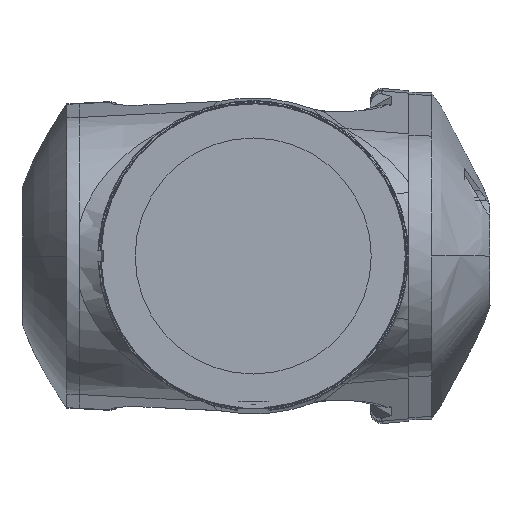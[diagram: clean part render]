
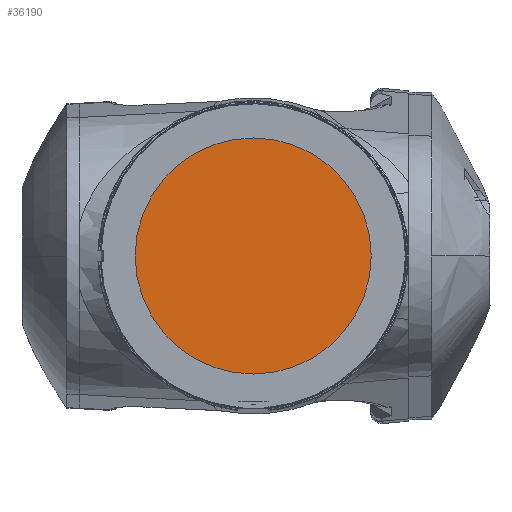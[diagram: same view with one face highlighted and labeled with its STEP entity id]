
A CAD part, left-side view. The second image highlights one B-rep face of the part: STEP entity #36190.
In plain terms, the highlighted planar face has unit normal (-1, 0, 0).
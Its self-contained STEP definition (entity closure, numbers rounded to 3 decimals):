
#444 = DIRECTION ( 'NONE',  ( 0., -1., 0. ) ) ;
#1082 = CIRCLE ( 'NONE', #19964, 85. ) ;
#4313 = ORIENTED_EDGE ( 'NONE', *, *, #29098, .T. ) ;
#7417 = ORIENTED_EDGE ( 'NONE', *, *, #19008, .T. ) ;
#8710 = CARTESIAN_POINT ( 'NONE',  ( 407., 85., 1990. ) ) ;
#9159 = CIRCLE ( 'NONE', #14487, 85. ) ;
#14487 = AXIS2_PLACEMENT_3D ( 'NONE', #22592, #28523, #35041 ) ;
#15184 = VERTEX_POINT ( 'NONE', #15275 ) ;
#15275 = CARTESIAN_POINT ( 'NONE',  ( 407., -85., 1990. ) ) ;
#18536 = AXIS2_PLACEMENT_3D ( 'NONE', #35649, #33397, #39313 ) ;
#19008 = EDGE_CURVE ( 'NONE', #21467, #15184, #9159, .T. ) ;
#19195 = DIRECTION ( 'NONE',  ( -1., 0., 0. ) ) ;
#19964 = AXIS2_PLACEMENT_3D ( 'NONE', #34691, #19195, #444 ) ;
#20757 = PLANE ( 'NONE',  #18536 ) ;
#21467 = VERTEX_POINT ( 'NONE', #8710 ) ;
#21865 = EDGE_LOOP ( 'NONE', ( #7417, #4313 ) ) ;
#22592 = CARTESIAN_POINT ( 'NONE',  ( 407., 0., 1990. ) ) ;
#28523 = DIRECTION ( 'NONE',  ( -1., 0., 0. ) ) ;
#29098 = EDGE_CURVE ( 'NONE', #15184, #21467, #1082, .T. ) ;
#33397 = DIRECTION ( 'NONE',  ( -1., 0., 0. ) ) ;
#34691 = CARTESIAN_POINT ( 'NONE',  ( 407., 0., 1990. ) ) ;
#35041 = DIRECTION ( 'NONE',  ( 0., -1., 0. ) ) ;
#35649 = CARTESIAN_POINT ( 'NONE',  ( 407., 0., 1990. ) ) ;
#36054 = FACE_OUTER_BOUND ( 'NONE', #21865, .T. ) ;
#36190 = ADVANCED_FACE ( 'NONE', ( #36054 ), #20757, .T. ) ;
#39313 = DIRECTION ( 'NONE',  ( 0., -1., 0. ) ) ;
